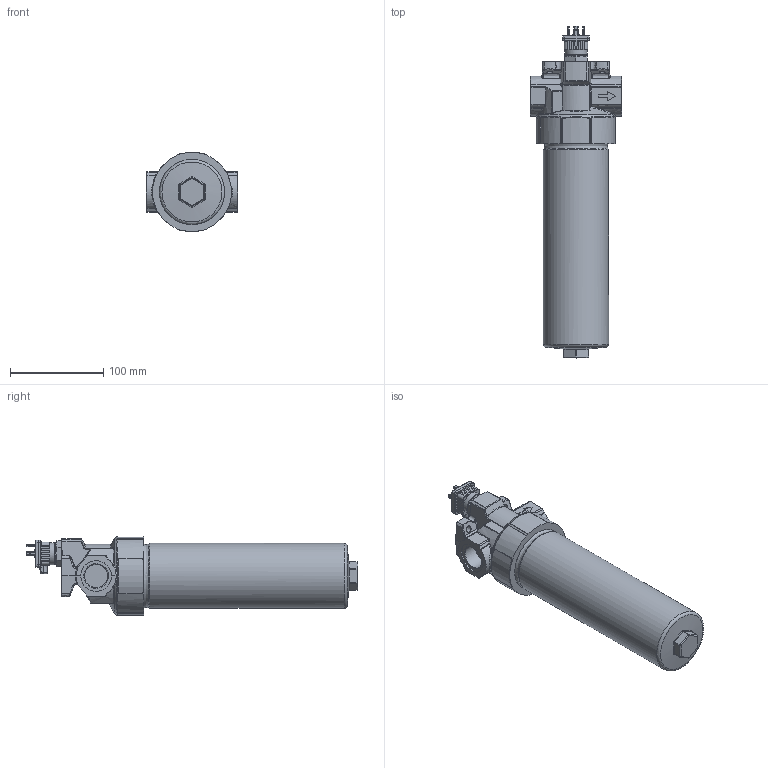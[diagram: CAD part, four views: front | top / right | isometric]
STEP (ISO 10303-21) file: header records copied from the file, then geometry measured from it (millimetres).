
FILE_DESCRIPTION((''),'2;1');
FILE_NAME('U:\Users\i.maeder\34312600_D152-156ED8.stp', '2016-08-29T09:47:40',('User'),('SDRC'),'I-DEAS Master Series 9','UNIX', 'Yes');
FILE_SCHEMA(('AUTOMOTIVE_DESIGN { 1 0 10303 214 1 1 1 1 }'));
Length unit declared in the file: millimetre
Products named in the file (1): 34312600
Bounding box: 98 x 356.9 x 84.95 mm (x, y, z)
Volume: 1255947 mm3; surface area: 94878.7 mm2
Topology: 1 solids, 1 shells, 1053 faces, 2872 edges, 1820 vertices
Faces by surface type: bspline 1053
Entity records: 44905 total; most frequent: CARTESIAN_POINT 28645, ORIENTED_EDGE 5676, EDGE_CURVE 2838, VERTEX_POINT 1820, B_SPLINE_CURVE_WITH_KNOTS 1716, EDGE_LOOP 1100, FACE_OUTER_BOUND 1053, ADVANCED_FACE 1053
